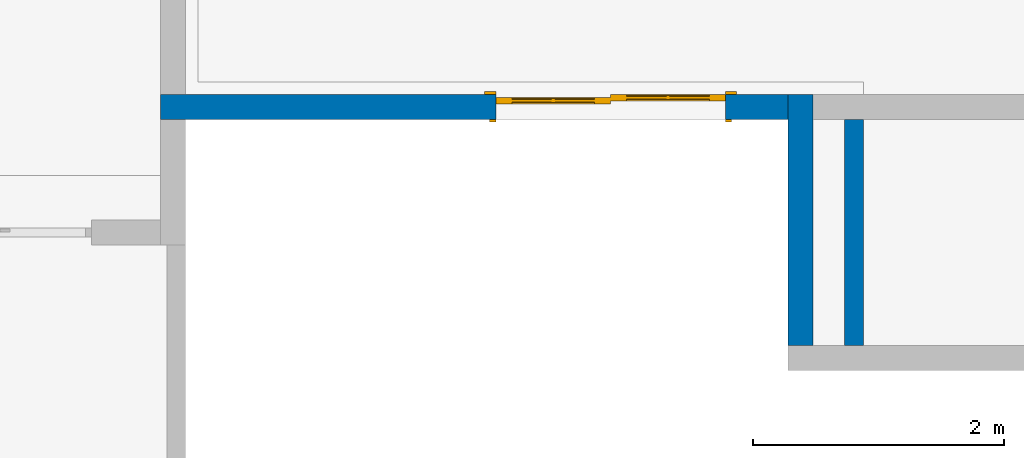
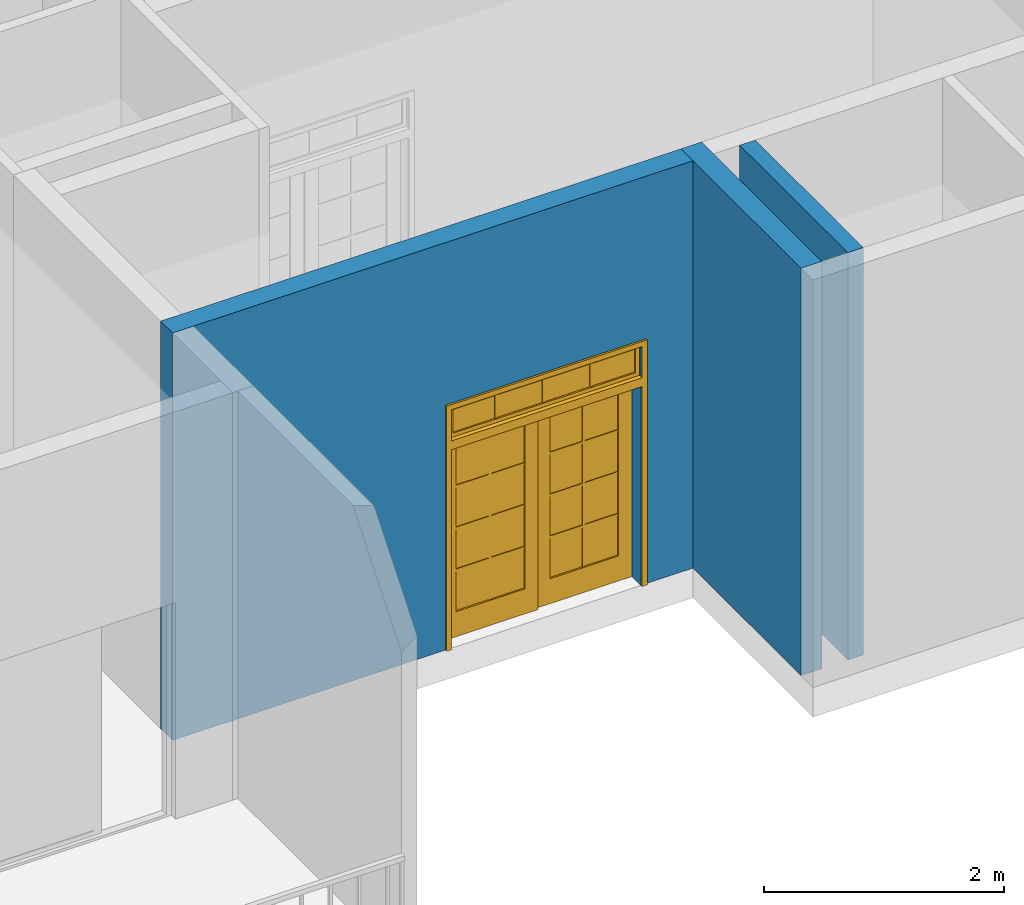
# One storey, part 2 of 8: 3 walls, 1 door, 1 opening.
"""IFC2X3 building model written with IfcOpenShell, lengths in metres."""

import ifcopenshell
import ifcopenshell.guid

model = None  # the IFC model being written
_history = None  # IfcOwnerHistory: only IFC2X3 demands one
_inside = {}  # id of a spatial element -> (the spatial element, [elements in it])
_under = {}  # id of a project, library or spatial element -> (it, [spatial elements below it])
_declared = {}  # id of a project -> (the project, [libraries it declares])
_typed = {}  # id of a type object -> (the type object, [elements of that type])
_made_of = {}  # id of a material, layer set ... -> (it, [elements and type objects made of it])


def new_model(schema):
    """Start an empty IFC model of exactly this schema.

    Asked for "IFC4X3", IfcOpenShell would pick the latest addendum, in which some entities
    have other attributes; the version numbers below select the first issue.
    IFC2X3 requires an IfcOwnerHistory on every rooted entity: one is made here for all.
    """
    global model, _history
    if schema == "IFC4X3":
        model = ifcopenshell.file(schema_version=(4, 3, 0, 0))
    else:
        model = ifcopenshell.file(schema=schema)
    _inside.clear()
    _under.clear()
    _declared.clear()
    _typed.clear()
    _made_of.clear()
    _history = None
    if model.schema == "IFC2X3":
        org = make("IfcOrganization", Name="unknown")
        user = make(
            "IfcPersonAndOrganization",
            ThePerson=make("IfcPerson", FamilyName="unknown"),
            TheOrganization=org,
        )
        app = make(
            "IfcApplication",
            ApplicationDeveloper=org,
            Version="unknown",
            ApplicationFullName="unknown",
            ApplicationIdentifier="unknown",
        )
        _history = make(
            "IfcOwnerHistory",
            OwningUser=user,
            OwningApplication=app,
            ChangeAction="ADDED",
            CreationDate=0,
        )
    return model


def make(cls, **values):
    """One entity of the class cls with the attributes given. An attribute that is None is left unset."""
    return model.create_entity(
        cls, **{name: value for name, value in values.items() if value is not None}
    )


def entity(cls, *values):
    """Any entity or typed value of the class cls, its attributes in the order of the schema. None: left unset."""
    e = model.create_entity(cls)
    for i, value in enumerate(values):
        if value is not None:
            e[i] = value
    return e


def rooted(cls, **values):
    """An entity with a GlobalId (a new one), such as an element, a storey or a relation."""
    return make(cls, GlobalId=ifcopenshell.guid.new(), OwnerHistory=_history, **values)


def si_unit(unit_type, name, prefix=None):
    """IfcSIUnit, for example si_unit("LENGTHUNIT", "METRE", prefix="MILLI")."""
    return make("IfcSIUnit", UnitType=unit_type, Prefix=prefix, Name=name)


def converted_unit(unit_type, name, factor, base, dimensions=None, offset=None):
    """IfcConversionBasedUnit, such as the inch: factor (a typed value) times the base unit."""
    return make(
        "IfcConversionBasedUnit"
        if offset is None
        else "IfcConversionBasedUnitWithOffset",
        ConversionOffset=offset,
        Dimensions=None
        if dimensions is None
        else entity("IfcDimensionalExponents", *dimensions),
        UnitType=unit_type,
        Name=name,
        ConversionFactor=make(
            "IfcMeasureWithUnit", ValueComponent=factor, UnitComponent=base
        ),
    )


def derived_unit(unit_type, elements):
    """IfcDerivedUnit: a product of units, each with its exponent."""
    return make(
        "IfcDerivedUnit",
        Elements=[
            make("IfcDerivedUnitElement", Unit=unit, Exponent=power)
            for unit, power in elements
        ],
        UnitType=unit_type,
    )


def assignment(units):
    """IfcUnitAssignment: the units of a project."""
    return None if units is None else make("IfcUnitAssignment", Units=units)


def point(xyz):
    """IfcCartesianPoint."""
    return None if xyz is None else make("IfcCartesianPoint", Coordinates=xyz)


def direction(xyz):
    """IfcDirection."""
    return None if xyz is None else make("IfcDirection", DirectionRatios=xyz)


def frame(location, z_axis=None, x_axis=None):
    """IfcAxis2Placement3D, a coordinate frame: its origin and axes. An axis left out is left unset."""
    return make(
        "IfcAxis2Placement3D",
        Location=point(location),
        Axis=direction(z_axis),
        RefDirection=direction(x_axis),
    )


def frame_2d(location, x_axis=None):
    """IfcAxis2Placement2D, a coordinate frame in the plane: its origin and x axis."""
    return make(
        "IfcAxis2Placement2D", Location=point(location), RefDirection=direction(x_axis)
    )


def origin():
    """The frame at (0, 0, 0) with its axes left unset."""
    return frame((0.0, 0.0, 0.0))


def place(relative_to, where):
    """IfcLocalPlacement: puts the frame where relative to a parent placement (None: the world)."""
    return make(
        "IfcLocalPlacement", PlacementRelTo=relative_to, RelativePlacement=where
    )


def context(
    kind, dimensions, precision=None, world=None, true_north=None, identifier=None
):
    """IfcGeometricRepresentationContext, for example the 3D "Model" context."""
    return make(
        "IfcGeometricRepresentationContext",
        ContextIdentifier=identifier,
        ContextType=kind,
        CoordinateSpaceDimension=dimensions,
        Precision=precision,
        WorldCoordinateSystem=world,
        TrueNorth=true_north,
    )


def subcontext(parent, identifier, kind, view, scale=None):
    """IfcGeometricRepresentationSubContext, for example "Body" below "Model"."""
    return make(
        "IfcGeometricRepresentationSubContext",
        ContextIdentifier=identifier,
        ContextType=kind,
        ParentContext=parent,
        TargetScale=scale,
        TargetView=view,
    )


def project(units=None, contexts=None):
    """IfcProject with its units and contexts."""
    return rooted(
        "IfcProject",
        Name="project",
        RepresentationContexts=contexts,
        UnitsInContext=assignment(units),
    )


def spatial(cls, under=None, at=None, **own):
    """A site, building, storey or space (cls), placed at a placement, below another one or the project."""
    s = rooted(cls, ObjectPlacement=at, **own)
    if under is not None:
        _under.setdefault(under.id(), (under, []))[1].append(s)
    return s


def profile(cls, at=None, kind="AREA", **sizes):
    """A parametric profile (cls). Its sizes go by their IFC names, for example OverallWidth=200.0."""
    return make(cls, ProfileType=kind, Position=at, **sizes)


def rectangle(**sizes):
    """IfcRectangleProfileDef."""
    return profile("IfcRectangleProfileDef", **sizes)


def extrude(swept, where, along, depth):
    """IfcExtrudedAreaSolid: the profile swept, set in the frame where, extruded along a direction by depth."""
    return make(
        "IfcExtrudedAreaSolid",
        SweptArea=swept,
        Position=where,
        ExtrudedDirection=direction(along),
        Depth=depth,
    )


def faces_of(points, faces, orient=None, outer=None):
    """IfcFace entities. A face is a list of loops; a loop is a list of indices into points, from 0.

    orient and outer hold one flag for each loop. By default every Orientation is true, the
    first loop of a face is its IfcFaceOuterBound and the others are IfcFaceBound.
    """
    made = []
    for i, loops in enumerate(faces):
        bounds = []
        for j, loop in enumerate(loops):
            is_outer = j == 0 if outer is None else outer[i][j]
            bounds.append(
                make(
                    "IfcFaceOuterBound" if is_outer else "IfcFaceBound",
                    Bound=make("IfcPolyLoop", Polygon=[points[k] for k in loop]),
                    Orientation=True if orient is None else orient[i][j],
                )
            )
        made.append(make("IfcFace", Bounds=bounds))
    return made


def faceted_brep(points, faces, orient=None, outer=None, voids=None):
    """IfcFacetedBrep: a solid bounded by flat faces; with voids (closed shells), ...WithVoids."""
    shared = [point(p) for p in points]
    hull = make("IfcClosedShell", CfsFaces=faces_of(shared, faces, orient, outer))
    if voids is None:
        return make("IfcFacetedBrep", Outer=hull)
    return make(
        "IfcFacetedBrepWithVoids",
        Outer=hull,
        Voids=[
            make(cls, CfsFaces=faces_of(shared, fs, o, b)) for cls, fs, o, b in voids
        ],
    )


def shape(context_of_items, identifier, shape_type, items):
    """IfcShapeRepresentation: the items that make up one representation, for example the "Body"."""
    return make(
        "IfcShapeRepresentation",
        ContextOfItems=context_of_items,
        RepresentationIdentifier=identifier,
        RepresentationType=shape_type,
        Items=items,
    )


def source(mapping_origin, context_of_items, identifier, shape_type, items):
    """IfcRepresentationMap: a shape defined once, which mapped items show again and again."""
    return make(
        "IfcRepresentationMap",
        MappingOrigin=mapping_origin,
        MappedRepresentation=shape(context_of_items, identifier, shape_type, items),
    )


def transform(
    local_origin,
    x_axis=None,
    y_axis=None,
    z_axis=None,
    scale=None,
    scale2=None,
    scale3=None,
    uniform=True,
):
    """IfcCartesianTransformationOperator3D, or its non-uniform kind. x_axis, y_axis, z_axis: its Axis1, 2, 3."""
    if uniform:
        return make(
            "IfcCartesianTransformationOperator3D",
            Axis1=direction(x_axis),
            Axis2=direction(y_axis),
            LocalOrigin=point(local_origin),
            Scale=scale,
            Axis3=direction(z_axis),
        )
    return make(
        "IfcCartesianTransformationOperator3DnonUniform",
        Axis1=direction(x_axis),
        Axis2=direction(y_axis),
        LocalOrigin=point(local_origin),
        Scale=scale,
        Axis3=direction(z_axis),
        Scale2=scale2,
        Scale3=scale3,
    )


def mapped(mapping_source, mapping_target):
    """IfcMappedItem: shows the shape of a source again, moved by a transform."""
    return make(
        "IfcMappedItem", MappingSource=mapping_source, MappingTarget=mapping_target
    )


def material(Name=None, Category=None):
    """IfcMaterial."""
    return make("IfcMaterial", Name=Name, Category=Category)


def material_list(materials):
    """IfcMaterialList."""
    return make("IfcMaterialList", Materials=materials)


def layer(
    of_material, thickness, ventilated=None, Name=None, Category=None, Priority=None
):
    """IfcMaterialLayer: one layer of a wall or slab, of a material (None: an air gap)."""
    return make(
        "IfcMaterialLayer",
        Material=of_material,
        LayerThickness=thickness,
        IsVentilated=ventilated,
        Name=Name,
        Category=Category,
        Priority=Priority,
    )


def layer_set(layers, Name=None):
    """IfcMaterialLayerSet."""
    return make("IfcMaterialLayerSet", MaterialLayers=layers, LayerSetName=Name)


def layer_usage(for_layer_set, set_direction, sense, offset, extent=None):
    """IfcMaterialLayerSetUsage: how a layer set lies in its element."""
    return make(
        "IfcMaterialLayerSetUsage",
        ForLayerSet=for_layer_set,
        LayerSetDirection=set_direction,
        DirectionSense=sense,
        OffsetFromReferenceLine=offset,
        ReferenceExtent=extent,
    )


def made_of(thing, what):
    """Note that an element or type object is made of a material, layer set ...; save() writes the relation."""
    if what is not None:
        _made_of.setdefault(what.id(), (what, []))[1].append(thing)
    return thing


def type_object(cls, material=None, **own):
    """A type object (cls), such as IfcWallType, which elements share."""
    return made_of(rooted(cls, **own), material)


def type_shapes(of_type, sources):
    """Give a type object the sources (RepresentationMaps) that its elements show as mapped items."""
    of_type.RepresentationMaps = sources


def element(
    cls,
    number,
    at=None,
    inside=None,
    cuts=None,
    type_object=None,
    material=None,
    context=None,
    identifier="Body",
    shape_type=None,
    held_by="IfcProductDefinitionShape",
    body=None,
    shapes=None,
    **own,
):
    """One element of the class cls, such as IfcWall. Its Tag is "e" and its number.

    at: its placement. inside: the storey or other place that contains it. cuts: it is an
    opening in that element (IfcRelVoidsElement). A single representation is given by context,
    identifier, shape_type and body (its items); several are given by shapes. held_by: the class
    of the entity that holds the representations. save() writes the other relations.
    """
    e = rooted(cls, Tag="e%d" % number, ObjectPlacement=at, **own)
    if body is not None:
        shapes = [shape(context, identifier, shape_type, body)]
    if shapes is not None:
        e.Representation = make(held_by, Representations=shapes)
    if inside is not None:
        _inside.setdefault(inside.id(), (inside, []))[1].append(e)
    if cuts is not None:
        rooted(
            "IfcRelVoidsElement", RelatingBuildingElement=cuts, RelatedOpeningElement=e
        )
    if type_object is not None:
        _typed.setdefault(type_object.id(), (type_object, []))[1].append(e)
    return made_of(e, material)


def fill(opening, filler):
    """IfcRelFillsElement: the door or window that sits in an opening."""
    return rooted(
        "IfcRelFillsElement",
        RelatingOpeningElement=opening,
        RelatedBuildingElement=filler,
    )


def aggregate(whole, parts):
    """IfcRelAggregates: a whole, such as a stair, and the parts it consists of."""
    return rooted("IfcRelAggregates", RelatingObject=whole, RelatedObjects=parts)


def save(model, path):
    """Write the relations noted so far, then the file.

    IfcRelAggregates (storeys below a building ...), IfcRelContainedInSpatialStructure (elements
    in a storey), IfcRelDefinesByType, IfcRelAssociatesMaterial and IfcRelDeclares: one each for
    every whole, place, type object, material and project.
    """
    for whole, parts in _under.values():
        aggregate(whole, parts)
    for where, things in _inside.values():
        rooted(
            "IfcRelContainedInSpatialStructure",
            RelatedElements=things,
            RelatingStructure=where,
        )
    for kind, things in _typed.values():
        rooted("IfcRelDefinesByType", RelatedObjects=things, RelatingType=kind)
    for what, things in _made_of.values():
        rooted("IfcRelAssociatesMaterial", RelatedObjects=things, RelatingMaterial=what)
    for by, libraries in _declared.values():
        rooted("IfcRelDeclares", RelatingContext=by, RelatedDefinitions=libraries)
    model.write(path)


model = new_model("IFC2X3")

# Units and contexts
model_context = context("Model", 3, precision=1e-05, world=origin(), true_north=direction((6.123031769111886e-17, 1.0)))
body_context = subcontext(model_context, "Body", "Model", "MODEL_VIEW")
ifc_project = project(units=[si_unit("LENGTHUNIT", "METRE"), si_unit("AREAUNIT", "SQUARE_METRE"), si_unit("VOLUMEUNIT", "CUBIC_METRE"), converted_unit("PLANEANGLEUNIT", "DEGREE", entity("IfcRatioMeasure", 0.017453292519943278), si_unit("PLANEANGLEUNIT", "RADIAN"), dimensions=[0, 0, 0, 0, 0, 0, 0]), si_unit("MASSUNIT", "GRAM", prefix="KILO"), derived_unit("MASSDENSITYUNIT", [(si_unit("MASSUNIT", "GRAM", prefix="KILO"), 1), (si_unit("LENGTHUNIT", "METRE"), -3)]), derived_unit("MOMENTOFINERTIAUNIT", [(si_unit("LENGTHUNIT", "METRE"), 4)]), si_unit("TIMEUNIT", "SECOND"), si_unit("FREQUENCYUNIT", "HERTZ"), si_unit("THERMODYNAMICTEMPERATUREUNIT", "DEGREE_CELSIUS"), derived_unit("THERMALTRANSMITTANCEUNIT", [(si_unit("MASSUNIT", "GRAM", prefix="KILO"), 1), (si_unit("THERMODYNAMICTEMPERATUREUNIT", "KELVIN"), -1), (si_unit("TIMEUNIT", "SECOND"), -3)]), derived_unit("VOLUMETRICFLOWRATEUNIT", [(si_unit("LENGTHUNIT", "METRE"), 3), (si_unit("TIMEUNIT", "SECOND"), -1)]), derived_unit("MASSFLOWRATEUNIT", [(si_unit("MASSUNIT", "GRAM", prefix="KILO"), 1), (si_unit("TIMEUNIT", "SECOND"), -1)]), derived_unit("ROTATIONALFREQUENCYUNIT", [(si_unit("TIMEUNIT", "SECOND"), -1)]), si_unit("ELECTRICCURRENTUNIT", "AMPERE"), si_unit("ELECTRICVOLTAGEUNIT", "VOLT"), si_unit("POWERUNIT", "WATT"), si_unit("FORCEUNIT", "NEWTON", prefix="KILO"), si_unit("ILLUMINANCEUNIT", "LUX"), si_unit("LUMINOUSFLUXUNIT", "LUMEN"), si_unit("LUMINOUSINTENSITYUNIT", "CANDELA"), derived_unit("USERDEFINED", [(si_unit("MASSUNIT", "GRAM", prefix="KILO"), -1), (si_unit("LENGTHUNIT", "METRE"), -2), (si_unit("TIMEUNIT", "SECOND"), 3), (si_unit("LUMINOUSFLUXUNIT", "LUMEN"), 1)]), derived_unit("SOUNDPOWERUNIT", [(si_unit("MASSUNIT", "GRAM", prefix="KILO"), 1), (si_unit("LENGTHUNIT", "METRE"), 2), (si_unit("TIMEUNIT", "SECOND"), -3)]), derived_unit("SOUNDPRESSUREUNIT", [(si_unit("MASSUNIT", "GRAM", prefix="KILO"), 1), (si_unit("LENGTHUNIT", "METRE"), -1), (si_unit("TIMEUNIT", "SECOND"), -2)]), derived_unit("LINEARVELOCITYUNIT", [(si_unit("LENGTHUNIT", "METRE"), 1), (si_unit("TIMEUNIT", "SECOND"), -1)]), si_unit("PRESSUREUNIT", "PASCAL"), derived_unit("USERDEFINED", [(si_unit("LENGTHUNIT", "METRE"), -2), (si_unit("MASSUNIT", "GRAM", prefix="KILO"), 1), (si_unit("TIMEUNIT", "SECOND"), -2)]), derived_unit("LINEARFORCEUNIT", [(si_unit("MASSUNIT", "GRAM", prefix="KILO"), 1), (si_unit("LENGTHUNIT", "METRE"), 1), (si_unit("TIMEUNIT", "SECOND"), -2), (si_unit("LENGTHUNIT", "METRE"), -1)]), derived_unit("PLANARFORCEUNIT", [(si_unit("MASSUNIT", "GRAM", prefix="KILO"), 1), (si_unit("LENGTHUNIT", "METRE"), 1), (si_unit("TIMEUNIT", "SECOND"), -2), (si_unit("LENGTHUNIT", "METRE"), -2)])], contexts=[model_context])

# Site, building, storey
site_placement = place(None, origin())
site = spatial("IfcSite", under=ifc_project, at=site_placement, Name="Default", CompositionType="ELEMENT")
building_placement = place(site_placement, origin())
building = spatial("IfcBuilding", under=site, at=building_placement, CompositionType="ELEMENT")
storey_placement = place(building_placement, frame((0.0, 0.0, 1.1999999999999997)))
storey = spatial("IfcBuildingStorey", under=building, at=storey_placement, Name="G0", CompositionType="ELEMENT", Elevation=1.1999999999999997)

# Wall
ifc_material_1 = material(Name="Masonry - Concrete Block")
ifc_layer_1 = layer(ifc_material_1, 0.2)
ifc_layer_set_1 = layer_set([ifc_layer_1], Name="Basic Wall:CW 200")
ifc_layer_usage_1 = layer_usage(ifc_layer_set_1, "AXIS2", "NEGATIVE", 0.1)
wall_type_1 = type_object("IfcWallType", Name="Basic Wall:CW 200", PredefinedType="STANDARD", material=ifc_layer_set_1)
wall_1_placement = place(storey_placement, frame((18.00768321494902, -7.10230916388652, 0.0), z_axis=(0.0, 0.0, 1.0), x_axis=(0.0, 1.0, 0.0)))
element("IfcWallStandardCase", 1, at=wall_1_placement, inside=storey, type_object=wall_type_1, material=ifc_layer_usage_1, Name="Basic Wall:CW 200", ObjectType="Basic Wall:CW 200", context=body_context, shape_type="SweptSolid", body=[
    extrude(rectangle(XDim=1.9999999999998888, YDim=0.19999999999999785, at=frame_2d((0.9999999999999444, 1.1796119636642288e-16), x_axis=(-1.0, 0.0))), origin(), (0.0, 0.0, 1.0), 4.139999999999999),
])

# Wall, opening, door
ifc_layer_usage_2 = layer_usage(ifc_layer_set_1, "AXIS2", "NEGATIVE", 0.1)
wall_2_placement = place(storey_placement, frame((17.90768321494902, -5.202309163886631, 0.0), z_axis=(0.0, 0.0, 1.0), x_axis=(-1.0, 0.0, 0.0)))
wall_2 = element("IfcWallStandardCase", 2, at=wall_2_placement, inside=storey, type_object=wall_type_1, material=ifc_layer_usage_2, Name="Basic Wall:CW 200", ObjectType="Basic Wall:CW 200", context=body_context, shape_type="SweptSolid", body=[
    extrude(rectangle(XDim=5.000000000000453, YDim=0.2, at=frame_2d((2.5000000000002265, 0.0), x_axis=(1.0, 0.0))), origin(), (0.0, 0.0, 1.0), 4.139999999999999),
])
opening_placement = place(wall_2_placement, frame((2.328800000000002, 0.0999999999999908, 0.0)))
opening = element("IfcOpeningElement", 3, at=opening_placement, cuts=wall_2, Name="Double_8_lite_patio_door_5282:36x2\" x 80\" w/transom\":1", ObjectType="Opening", context=body_context, shape_type="SweptSolid", body=[
    extrude(rectangle(XDim=1.8287999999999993, YDim=2.4384000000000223, at=frame_2d((1.2192000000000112, 0.9144000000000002), x_axis=(0.0, -1.0))), frame((0.0, 0.0, 0.0), z_axis=(0.0, -1.0, 0.0), x_axis=(0.0, 0.0, 1.0)), (0.0, 0.0, 1.0), 0.2),
])
ifc_material_2 = material(Name="<Unnamed>")
ifc_material_3 = material(Name="Door - Panel")
ifc_material_4 = material(Name="Glazing - Window Glazing")
ifc_material_5 = material(Name="Finishes - Exterior - Trim")
ifc_material_6 = material(Name="Finishes - Interior - Trim")
ifc_material_list_1 = material_list([ifc_material_2, ifc_material_3, ifc_material_3, ifc_material_4, ifc_material_3, ifc_material_3, ifc_material_3, ifc_material_4, ifc_material_3, ifc_material_5, ifc_material_4, ifc_material_3, ifc_material_3, ifc_material_5, ifc_material_5, ifc_material_5, ifc_material_6])
ifc_material_list_2 = material_list([ifc_material_2, ifc_material_3, ifc_material_3, ifc_material_4, ifc_material_3, ifc_material_3, ifc_material_3, ifc_material_4, ifc_material_3, ifc_material_5, ifc_material_4, ifc_material_3, ifc_material_3, ifc_material_5, ifc_material_5, ifc_material_5, ifc_material_6])
door_style = type_object("IfcDoorStyle", Name="Double_8_lite_patio_door_5282:36x2\" x 80\" w/transom\"", ConstructionType="NOTDEFINED", OperationType="NOTDEFINED", ParameterTakesPrecedence=False, Sizeable=False, material=ifc_material_list_2)
shared_shape = source(origin(), body_context, "Body", "Brep", [
    faceted_brep([(1.8288000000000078, 0.2000000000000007, 2.0319999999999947), (1.8288000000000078, 0.0, 2.0319999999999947), (0.0, 0.0, 2.0319999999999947), (0.0, 0.2000000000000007, 2.0319999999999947), (1.8288000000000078, 0.2000000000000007, 2.120899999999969), (0.0, 0.2000000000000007, 2.120899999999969), (0.0, 0.0, 2.120899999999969), (1.8288000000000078, 0.0, 2.120899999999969)], [[[0, 1, 2, 3]], [[4, 5, 6, 7]], [[1, 0, 4, 7]], [[2, 1, 7, 6]], [[3, 2, 6, 5]], [[0, 3, 5, 4]]]),
    faceted_brep([(1.3842999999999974, 0.16667500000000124, 2.1589999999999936), (1.3588999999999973, 0.16667500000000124, 2.1589999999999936), (1.3588999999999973, 0.16667500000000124, 2.40030000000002), (1.3842999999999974, 0.16667500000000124, 2.40030000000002), (1.3842999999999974, 0.1349250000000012, 2.1589999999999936), (1.3842999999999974, 0.1349250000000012, 2.40030000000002), (1.3588999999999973, 0.1349250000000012, 2.40030000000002), (1.3588999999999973, 0.1349250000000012, 2.1589999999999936)], [[[0, 1, 2, 3]], [[4, 5, 6, 7]], [[1, 0, 4, 7]], [[2, 1, 7, 6]], [[3, 2, 6, 5]], [[0, 3, 5, 4]]]),
    faceted_brep([(0.46990000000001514, 0.16667500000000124, 2.15899999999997), (0.4445000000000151, 0.16667500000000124, 2.15899999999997), (0.4445000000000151, 0.16667500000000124, 2.4002999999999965), (0.46990000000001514, 0.16667500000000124, 2.4002999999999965), (0.46990000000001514, 0.1349250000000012, 2.15899999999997), (0.46990000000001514, 0.1349250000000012, 2.4002999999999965), (0.4445000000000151, 0.1349250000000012, 2.4002999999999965), (0.4445000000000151, 0.1349250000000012, 2.15899999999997)], [[[0, 1, 2, 3]], [[4, 5, 6, 7]], [[1, 0, 4, 7]], [[2, 1, 7, 6]], [[3, 2, 6, 5]], [[0, 3, 5, 4]]]),
    faceted_brep([(1.0159999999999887, 0.05872499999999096, 1.93040000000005), (1.7525999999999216, 0.05872499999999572, 1.93040000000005), (1.7525999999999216, 0.05872499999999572, 0.2540000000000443), (1.0160000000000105, 0.05872499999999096, 0.25400000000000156), (1.015999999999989, 0.03967499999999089, 1.93040000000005), (1.0160000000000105, 0.03967499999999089, 0.25400000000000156), (1.7525999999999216, 0.03967499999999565, 0.2540000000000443), (1.7525999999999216, 0.03967499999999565, 1.93040000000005)], [[[0, 1, 2, 3]], [[4, 5, 6, 7]], [[1, 0, 4, 7]], [[2, 1, 7, 6]], [[3, 2, 6, 5]], [[0, 3, 5, 4]]]),
    faceted_brep([(1.3842999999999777, 0.06507499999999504, 0.6794500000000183), (1.7017999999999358, 0.06507499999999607, 0.6794500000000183), (1.7017999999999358, 0.06507499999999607, 0.6540500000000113), (1.3842999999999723, 0.06507499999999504, 0.6540500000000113), (1.3842999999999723, 0.06507499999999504, 0.25400000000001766), (1.3588999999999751, 0.06507499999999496, 0.25400000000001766), (1.3588999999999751, 0.06507499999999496, 0.6540500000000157), (1.0414000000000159, 0.06507499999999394, 0.6540499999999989), (1.0414000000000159, 0.06507499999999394, 0.6794500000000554), (1.3588999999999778, 0.06507499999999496, 0.6794500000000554), (1.3588999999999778, 0.06507499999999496, 1.0795000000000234), (1.0414000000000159, 0.06507499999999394, 1.0795000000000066), (1.0414000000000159, 0.06507499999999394, 1.1049000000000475), (1.3588999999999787, 0.06507499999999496, 1.1049000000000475), (1.3588999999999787, 0.06507499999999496, 1.5049500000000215), (1.0414000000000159, 0.06507499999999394, 1.5049500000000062), (1.0414000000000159, 0.06507499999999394, 1.5303500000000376), (1.3588999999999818, 0.06507499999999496, 1.5303500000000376), (1.3588999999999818, 0.06507499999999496, 1.9304000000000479), (1.384299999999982, 0.06507499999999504, 1.9304000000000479), (1.384299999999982, 0.06507499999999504, 1.5303500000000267), (1.7017999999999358, 0.06507499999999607, 1.5303500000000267), (1.7017999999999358, 0.06507499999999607, 1.5049500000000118), (1.3842999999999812, 0.06507499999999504, 1.5049500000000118), (1.3842999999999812, 0.06507499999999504, 1.1049000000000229), (1.7017999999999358, 0.06507499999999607, 1.1049000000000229), (1.7017999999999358, 0.06507499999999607, 1.0795000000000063), (1.3842999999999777, 0.06507499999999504, 1.0795000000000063), (1.3842999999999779, 0.03332499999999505, 0.6794500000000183), (1.3842999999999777, 0.03332499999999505, 1.0795000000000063), (1.701799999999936, 0.03332499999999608, 1.0795000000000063), (1.701799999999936, 0.03332499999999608, 1.1049000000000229), (1.3842999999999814, 0.03332499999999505, 1.1049000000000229), (1.3842999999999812, 0.03332499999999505, 1.5049500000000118), (1.701799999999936, 0.03332499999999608, 1.5049500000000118), (1.701799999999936, 0.03332499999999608, 1.5303500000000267), (1.384299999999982, 0.03332499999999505, 1.5303500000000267), (1.384299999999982, 0.03332499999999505, 1.9304000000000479), (1.358899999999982, 0.03332499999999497, 1.9304000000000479), (1.358899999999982, 0.03332499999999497, 1.5303500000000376), (1.0414000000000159, 0.033324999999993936, 1.5303500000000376), (1.0414000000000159, 0.033324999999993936, 1.5049500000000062), (1.3588999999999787, 0.03332499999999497, 1.5049500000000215), (1.3588999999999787, 0.03332499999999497, 1.1049000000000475), (1.0414000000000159, 0.033324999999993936, 1.1049000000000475), (1.0414000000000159, 0.033324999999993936, 1.0795000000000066), (1.358899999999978, 0.03332499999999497, 1.0795000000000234), (1.358899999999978, 0.03332499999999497, 0.6794500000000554), (1.0414000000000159, 0.033324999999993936, 0.6794500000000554), (1.0414000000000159, 0.033324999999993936, 0.6540499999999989), (1.3588999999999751, 0.03332499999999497, 0.6540500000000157), (1.3588999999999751, 0.03332499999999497, 0.25400000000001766), (1.3842999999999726, 0.03332499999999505, 0.25400000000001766), (1.3842999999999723, 0.03332499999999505, 0.6540500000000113), (1.701799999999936, 0.03332499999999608, 0.6540500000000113), (1.701799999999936, 0.03332499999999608, 0.6794500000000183)], [[[0, 1, 2, 3, 4, 5, 6, 7, 8, 9, 10, 11, 12, 13, 14, 15, 16, 17, 18, 19, 20, 21, 22, 23, 24, 25, 26, 27]], [[28, 29, 30, 31, 32, 33, 34, 35, 36, 37, 38, 39, 40, 41, 42, 43, 44, 45, 46, 47, 48, 49, 50, 51, 52, 53, 54, 55]], [[1, 0, 28, 55]], [[2, 1, 55, 54]], [[3, 2, 54, 53]], [[4, 3, 53, 52]], [[5, 4, 52, 51]], [[6, 5, 51, 50]], [[7, 6, 50, 49]], [[8, 7, 49, 48]], [[9, 8, 48, 47]], [[10, 9, 47, 46]], [[11, 10, 46, 45]], [[12, 11, 45, 44]], [[13, 12, 44, 43]], [[14, 13, 43, 42]], [[15, 14, 42, 41]], [[16, 15, 41, 40]], [[17, 16, 40, 39]], [[18, 17, 39, 38]], [[19, 18, 38, 37]], [[20, 19, 37, 36]], [[21, 20, 36, 35]], [[22, 21, 35, 34]], [[23, 22, 34, 33]], [[24, 23, 33, 32]], [[25, 24, 32, 31]], [[26, 25, 31, 30]], [[27, 26, 30, 29]], [[0, 27, 29, 28]]]),
    faceted_brep([(0.9144000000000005, 0.07459999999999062, 2.032000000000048), (1.828800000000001, 0.07459999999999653, 2.032000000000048), (1.828800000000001, 0.07459999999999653, 0.0), (0.9144000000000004, 0.07459999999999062, 0.0), (1.0413999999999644, 0.07459999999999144, 1.9304000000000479), (1.0414000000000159, 0.07459999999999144, 0.25400000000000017), (1.701799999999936, 0.07459999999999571, 0.25400000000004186), (1.701799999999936, 0.07459999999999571, 1.9304000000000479), (0.9144000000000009, 0.023799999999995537, 2.032000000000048), (0.9144000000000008, 0.023799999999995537, 0.0), (1.828800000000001, 0.02380000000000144, 0.0), (1.828800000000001, 0.02380000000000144, 2.032000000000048), (1.0413999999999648, 0.02379999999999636, 1.9304000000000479), (1.7017999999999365, 0.023800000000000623, 1.9304000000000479), (1.7017999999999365, 0.023800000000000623, 0.25400000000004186), (1.041400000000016, 0.02379999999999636, 0.25400000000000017)], [[[0, 1, 2, 3], [4, 5, 6, 7]], [[8, 9, 10, 11], [12, 13, 14, 15]], [[1, 0, 8, 11]], [[2, 1, 11, 10]], [[3, 2, 10, 9]], [[0, 3, 9, 8]], [[5, 4, 12, 15]], [[6, 5, 15, 14]], [[7, 6, 14, 13]], [[4, 7, 13, 12]]]),
    faceted_brep([(0.44450000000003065, 0.04127499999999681, 0.6794500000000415), (0.44450000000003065, 0.04127499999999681, 1.079499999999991), (0.12700000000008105, 0.041274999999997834, 1.079499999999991), (0.12700000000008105, 0.041274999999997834, 1.104900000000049), (0.44450000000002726, 0.04127499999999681, 1.104900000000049), (0.44450000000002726, 0.04127499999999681, 1.5049499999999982), (0.12700000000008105, 0.041274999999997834, 1.5049499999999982), (0.12700000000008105, 0.041274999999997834, 1.5303500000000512), (0.4445000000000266, 0.04127499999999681, 1.5303500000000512), (0.4445000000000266, 0.04127499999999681, 1.9304000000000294), (0.46990000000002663, 0.041274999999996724, 1.9304000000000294), (0.46990000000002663, 0.041274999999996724, 1.5303500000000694), (0.7873999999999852, 0.041274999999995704, 1.5303500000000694), (0.7873999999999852, 0.041274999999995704, 1.50495000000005), (0.46990000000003, 0.041274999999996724, 1.5049500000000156), (0.46990000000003, 0.041274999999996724, 1.1049000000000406), (0.7873999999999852, 0.041274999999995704, 1.1049000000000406), (0.7873999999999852, 0.041274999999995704, 1.07950000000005), (0.4699000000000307, 0.041274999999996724, 1.079500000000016), (0.4699000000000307, 0.041274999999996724, 0.6794500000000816), (0.7873999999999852, 0.041274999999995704, 0.6794500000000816), (0.7873999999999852, 0.041274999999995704, 0.6540500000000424), (0.4699000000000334, 0.041274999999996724, 0.6540500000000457), (0.4699000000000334, 0.041274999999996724, 0.2540000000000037), (0.4445000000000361, 0.04127499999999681, 0.2540000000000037), (0.4445000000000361, 0.04127499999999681, 0.6540499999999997), (0.12700000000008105, 0.041274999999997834, 0.6540499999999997), (0.12700000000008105, 0.041274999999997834, 0.6794500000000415), (0.44450000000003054, 0.009524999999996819, 0.6794500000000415), (0.1270000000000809, 0.009524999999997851, 0.6794500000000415), (0.1270000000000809, 0.009524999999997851, 0.6540499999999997), (0.4445000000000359, 0.009524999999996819, 0.6540499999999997), (0.4445000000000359, 0.009524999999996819, 0.2540000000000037), (0.4699000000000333, 0.009524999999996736, 0.2540000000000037), (0.4699000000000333, 0.009524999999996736, 0.6540500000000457), (0.7873999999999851, 0.009524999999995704, 0.6540500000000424), (0.7873999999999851, 0.009524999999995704, 0.6794500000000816), (0.46990000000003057, 0.009524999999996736, 0.6794500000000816), (0.46990000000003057, 0.009524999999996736, 1.079500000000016), (0.7873999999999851, 0.009524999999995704, 1.07950000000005), (0.7873999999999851, 0.009524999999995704, 1.1049000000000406), (0.4699000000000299, 0.009524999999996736, 1.1049000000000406), (0.4699000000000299, 0.009524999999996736, 1.5049500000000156), (0.7873999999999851, 0.009524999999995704, 1.50495000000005), (0.7873999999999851, 0.009524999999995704, 1.5303500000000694), (0.4699000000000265, 0.009524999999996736, 1.5303500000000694), (0.4699000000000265, 0.009524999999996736, 1.9304000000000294), (0.4445000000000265, 0.009524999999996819, 1.9304000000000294), (0.4445000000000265, 0.009524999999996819, 1.5303500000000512), (0.1270000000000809, 0.009524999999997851, 1.5303500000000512), (0.1270000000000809, 0.009524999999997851, 1.5049499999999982), (0.44450000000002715, 0.009524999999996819, 1.5049499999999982), (0.44450000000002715, 0.009524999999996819, 1.104900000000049), (0.1270000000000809, 0.009524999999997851, 1.104900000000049), (0.1270000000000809, 0.009524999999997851, 1.079499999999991), (0.44450000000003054, 0.009524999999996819, 1.079499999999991)], [[[0, 1, 2, 3, 4, 5, 6, 7, 8, 9, 10, 11, 12, 13, 14, 15, 16, 17, 18, 19, 20, 21, 22, 23, 24, 25, 26, 27]], [[28, 29, 30, 31, 32, 33, 34, 35, 36, 37, 38, 39, 40, 41, 42, 43, 44, 45, 46, 47, 48, 49, 50, 51, 52, 53, 54, 55]], [[1, 0, 28, 55]], [[2, 1, 55, 54]], [[3, 2, 54, 53]], [[4, 3, 53, 52]], [[5, 4, 52, 51]], [[6, 5, 51, 50]], [[7, 6, 50, 49]], [[8, 7, 49, 48]], [[9, 8, 48, 47]], [[10, 9, 47, 46]], [[11, 10, 46, 45]], [[12, 11, 45, 44]], [[13, 12, 44, 43]], [[14, 13, 43, 42]], [[15, 14, 42, 41]], [[16, 15, 41, 40]], [[17, 16, 40, 39]], [[18, 17, 39, 38]], [[19, 18, 38, 37]], [[20, 19, 37, 36]], [[21, 20, 36, 35]], [[22, 21, 35, 34]], [[23, 22, 34, 33]], [[24, 23, 33, 32]], [[25, 24, 32, 31]], [[26, 25, 31, 30]], [[27, 26, 30, 29]], [[0, 27, 29, 28]]]),
    faceted_brep([(0.8128000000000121, 0.034924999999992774, 1.9304000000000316), (0.8127999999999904, 0.034924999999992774, 0.25400000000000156), (0.0762000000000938, 0.034924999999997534, 0.2540000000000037), (0.0762000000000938, 0.034924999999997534, 1.9304000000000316), (0.812800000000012, 0.015874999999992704, 1.9304000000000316), (0.07620000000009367, 0.015874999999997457, 1.9304000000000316), (0.0762000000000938, 0.015874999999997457, 0.2540000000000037), (0.8127999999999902, 0.015874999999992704, 0.25400000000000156)], [[[0, 1, 2, 3]], [[4, 5, 6, 7]], [[1, 0, 4, 7]], [[2, 1, 7, 6]], [[3, 2, 6, 5]], [[0, 3, 5, 4]]]),
    faceted_brep([(0.9143999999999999, 0.050799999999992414, 2.032000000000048), (0.9144000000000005, 0.050799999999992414, 0.0), (0.0, 0.05079999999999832, 0.0), (0.0, 0.05079999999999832, 2.032000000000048), (0.7874000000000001, 0.05079999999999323, 1.9304000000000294), (0.1270000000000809, 0.05079999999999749, 1.9304000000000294), (0.1270000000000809, 0.05079999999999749, 0.2540000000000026), (0.7873999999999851, 0.05079999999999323, 0.25400000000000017), (0.9143999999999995, 0.0, 2.032000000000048), (0.0, 0.0, 2.032000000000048), (0.0, 0.0, 0.0), (0.9144000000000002, 0.0, 0.0), (0.7873999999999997, 0.0, 1.9304000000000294), (0.7873999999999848, 0.0, 0.25400000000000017), (0.1270000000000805, 0.0, 0.2540000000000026), (0.1270000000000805, 0.0, 1.9304000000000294)], [[[0, 1, 2, 3], [4, 5, 6, 7]], [[8, 9, 10, 11], [12, 13, 14, 15]], [[1, 0, 8, 11]], [[2, 1, 11, 10]], [[3, 2, 10, 9]], [[0, 3, 9, 8]], [[5, 4, 12, 15]], [[6, 5, 15, 14]], [[7, 6, 14, 13]], [[4, 7, 13, 12]]]),
    faceted_brep([(-0.08889999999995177, 0.0, 2.438400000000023), (-0.0888999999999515, 0.0, 2.5781000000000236), (-0.11429999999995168, 0.0, 2.603500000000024), (-0.11429999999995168, 0.0, 2.6162000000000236), (1.943100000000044, 0.0, 2.6162000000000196), (1.943100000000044, 0.0, 2.60350000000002), (1.9177000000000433, 0.0, 2.5781000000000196), (1.9177000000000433, 0.0, 2.438400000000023), (1.9177000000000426, -0.025400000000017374, 2.4384000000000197), (-0.0888999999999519, -0.02540000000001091, 2.438400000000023), (-0.08889999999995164, -0.02540000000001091, 2.5781000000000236), (-0.11429999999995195, -0.05080000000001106, 2.603500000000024), (-0.11429999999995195, -0.05080000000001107, 2.6162000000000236), (1.9431000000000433, -0.05080000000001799, 2.6162000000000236), (1.9177000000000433, -0.025400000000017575, 2.5781000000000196), (1.9431000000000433, -0.05080000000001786, 2.60350000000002)], [[[0, 1, 2, 3, 4, 5, 6, 7]], [[0, 7, 8, 9]], [[1, 0, 9, 10]], [[2, 1, 10, 11]], [[3, 2, 11, 12]], [[4, 3, 12, 13]], [[10, 9, 8, 14]], [[11, 10, 14, 15]], [[12, 11, 15, 13]], [[14, 8, 7, 6]], [[15, 14, 6, 5]], [[13, 15, 5, 4]]]),
    faceted_brep([(1.7907000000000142, 0.14127500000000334, 2.4003000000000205), (0.03276657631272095, 0.14127500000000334, 2.4003000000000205), (0.03276657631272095, 0.14127500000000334, 2.1589999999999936), (1.7907000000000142, 0.14127500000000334, 2.1589999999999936), (1.7907000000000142, 0.1603250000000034, 2.4003000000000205), (1.7907000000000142, 0.1603250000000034, 2.1589999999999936), (0.03276657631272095, 0.1603250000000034, 2.1589999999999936), (0.03276657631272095, 0.1603250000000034, 2.4003000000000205)], [[[0, 1, 2, 3]], [[4, 5, 6, 7]], [[1, 0, 4, 7]], [[2, 1, 7, 6]], [[3, 2, 6, 5]], [[0, 3, 5, 4]]]),
    faceted_brep([(1.8341334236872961, 0.1254000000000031, 2.4383999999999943), (0.0, 0.1254000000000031, 2.4383999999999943), (0.0, 0.1254000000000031, 2.1208999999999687), (1.8341334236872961, 0.1254000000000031, 2.1208999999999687), (1.7907000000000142, 0.1254000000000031, 2.400299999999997), (1.7907000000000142, 0.1254000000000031, 2.158999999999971), (0.03810000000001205, 0.1254000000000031, 2.158999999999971), (0.038100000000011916, 0.1254000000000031, 2.400299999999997), (1.8341334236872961, 0.17619999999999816, 2.4383999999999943), (1.8341334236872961, 0.17619999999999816, 2.1208999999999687), (0.0, 0.17619999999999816, 2.1208999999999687), (0.0, 0.17619999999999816, 2.4383999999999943), (1.7907000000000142, 0.17619999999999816, 2.400299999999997), (0.038100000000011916, 0.17619999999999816, 2.400299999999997), (0.03810000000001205, 0.17619999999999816, 2.158999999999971), (1.7907000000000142, 0.17619999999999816, 2.158999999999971)], [[[0, 1, 2, 3], [4, 5, 6, 7]], [[8, 9, 10, 11], [12, 13, 14, 15]], [[1, 0, 8, 11]], [[2, 1, 11, 10]], [[3, 2, 10, 9]], [[0, 3, 9, 8]], [[5, 4, 12, 15]], [[6, 5, 15, 14]], [[7, 6, 14, 13]], [[4, 7, 13, 12]]]),
    faceted_brep([(0.9270999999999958, 0.16667500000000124, 2.158999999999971), (0.9016999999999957, 0.16667500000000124, 2.158999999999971), (0.9016999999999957, 0.16667500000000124, 2.4002999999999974), (0.9270999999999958, 0.16667500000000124, 2.4002999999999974), (0.9270999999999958, 0.1349250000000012, 2.158999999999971), (0.9270999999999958, 0.1349250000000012, 2.4002999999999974), (0.9016999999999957, 0.1349250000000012, 2.4002999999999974), (0.9016999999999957, 0.1349250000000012, 2.158999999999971)], [[[0, 1, 2, 3]], [[4, 5, 6, 7]], [[1, 0, 4, 7]], [[2, 1, 7, 6]], [[3, 2, 6, 5]], [[0, 3, 5, 4]]]),
    faceted_brep([(1.828800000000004, 0.0, 2.1208999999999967), (1.828800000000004, -0.02539999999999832, 2.1208999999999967), (1.828800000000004, -0.02539999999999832, 2.0320000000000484), (1.828800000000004, 0.0, 2.0320000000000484), (0.0, 0.0, 2.1209000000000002), (0.0, 0.0, 2.0320000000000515), (0.0, -0.02539999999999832, 2.0320000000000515), (0.0, -0.02539999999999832, 2.1209000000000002)], [[[0, 1, 2, 3]], [[4, 5, 6, 7]], [[1, 0, 4, 7]], [[2, 1, 7, 6]], [[3, 2, 6, 5]], [[0, 3, 5, 4]]]),
    faceted_brep([(1.8288000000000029, 0.0, 0.0), (1.9177000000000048, 0.0, 0.0), (1.9177000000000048, -0.025399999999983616, 0.0), (1.8288000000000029, -0.025399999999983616, 0.0), (1.8288000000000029, 0.0, 2.4384000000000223), (1.9177000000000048, 0.0, 2.4384000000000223), (1.9177000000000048, -0.025399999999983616, 2.4384000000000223), (1.8288000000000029, -0.025399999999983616, 2.4384000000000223)], [[[0, 1, 2, 3]], [[4, 5, 1, 0]], [[5, 6, 2, 1]], [[6, 7, 3, 2]], [[7, 4, 0, 3]], [[4, 7, 6, 5]]]),
    faceted_brep([(-0.08889999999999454, 0.0, 0.0), (0.0, 0.0, 0.0), (0.0, -0.025399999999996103, 0.0), (-0.08889999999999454, -0.025399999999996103, 0.0), (-0.08889999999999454, 0.0, 2.4384000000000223), (0.0, 0.0, 2.4384000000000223), (0.0, -0.025399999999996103, 2.4384000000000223), (-0.08889999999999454, -0.025399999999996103, 2.4384000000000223)], [[[0, 1, 2, 3]], [[4, 5, 1, 0]], [[5, 6, 2, 1]], [[6, 7, 3, 2]], [[7, 4, 0, 3]], [[4, 7, 6, 5]]]),
    faceted_brep([(0.0, 0.2190500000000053, 0.0), (0.0, 0.20000000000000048, 0.0), (-0.050799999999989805, 0.20000000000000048, 0.0), (-0.050799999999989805, 0.2190500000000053, 0.0), (0.0, 0.2190500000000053, 2.4383999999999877), (0.0, 0.20000000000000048, 2.4384000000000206), (0.0, 0.20000000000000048, 2.1208999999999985), (0.0, 0.2190500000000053, 2.1208999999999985), (0.0, 0.20000000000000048, 2.0320000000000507), (1.8288000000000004, 0.20000000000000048, 2.0320000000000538), (1.8288000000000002, 0.19999999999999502, 0.0), (1.8796000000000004, 0.19999999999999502, 0.0), (1.879599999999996, 0.19999999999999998, 2.4892000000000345), (-0.050799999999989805, 0.19999999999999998, 2.4892000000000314), (1.8288000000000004, 0.20000000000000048, 2.4384000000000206), (1.8288000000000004, 0.20000000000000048, 2.120900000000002), (-0.050799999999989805, 0.21905000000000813, 2.4892000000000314), (1.879599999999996, 0.21905000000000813, 2.4892000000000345), (1.879600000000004, 0.21905000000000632, 0.0), (1.8288000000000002, 0.21905000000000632, 0.0), (1.8288000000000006, 0.21905000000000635, 2.0320000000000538), (0.0, 0.2190500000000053, 2.0320000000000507), (1.8288000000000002, 0.21905000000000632, 2.120900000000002), (1.8288000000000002, 0.21905000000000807, 2.4383999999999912)], [[[0, 1, 2, 3]], [[4, 5, 6, 7]], [[2, 1, 8, 9, 10, 11, 12, 13], [14, 15, 6, 5]], [[3, 2, 13, 16]], [[0, 3, 16, 17, 18, 19, 20, 21], [4, 7, 22, 23]], [[18, 17, 12, 11]], [[19, 18, 11, 10]], [[14, 23, 22, 15]], [[5, 4, 23, 14]], [[16, 13, 12, 17]], [[9, 8, 21, 20]], [[6, 15, 22, 7]], [[19, 10, 9, 20]], [[1, 0, 21, 8]]]),
])
type_shapes(door_style, [shared_shape])
door_placement = place(opening_placement, frame((-1.8287999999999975, -0.19999999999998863, 0.0)))
door = element("IfcDoor", 4, at=door_placement, inside=storey, type_object=door_style, material=ifc_material_list_1, Name="Double_8_lite_patio_door_5282:36x2\" x 80\" w/transom\"", ObjectType="Double_8_lite_patio_door_5282:36x2\" x 80\" w/transom\"", OverallHeight=2.4384000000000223, OverallWidth=1.8288000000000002, context=body_context, shape_type="MappedRepresentation", body=[
    mapped(shared_shape, transform((0.0, 0.0, 0.0), scale=1.0)),
])
fill(opening, door)

# Wall
ifc_layer_2 = layer(ifc_material_1, 0.14999999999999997)
ifc_layer_set_2 = layer_set([ifc_layer_2], Name="Basic Wall:CW 150")
ifc_layer_usage_3 = layer_usage(ifc_layer_set_2, "AXIS2", "NEGATIVE", 0.07499999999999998)
wall_type_2 = type_object("IfcWallType", Name="Basic Wall:CW 150", PredefinedType="STANDARD", material=ifc_layer_set_2)
wall_3_placement = place(storey_placement, frame((18.432683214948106, -5.302309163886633, 0.0), z_axis=(0.0, 0.0, 1.0), x_axis=(0.0, -1.0, 0.0)))
element("IfcWallStandardCase", 5, at=wall_3_placement, inside=storey, type_object=wall_type_2, material=ifc_layer_usage_3, Name="Basic Wall:CW 150", ObjectType="Basic Wall:CW 150", context=body_context, shape_type="SweptSolid", body=[
    extrude(rectangle(XDim=1.7999999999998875, YDim=0.15000000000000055, at=frame_2d((0.8999999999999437, 0.0), x_axis=(-1.0, 0.0))), origin(), (0.0, 0.0, 1.0), 4.139999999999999),
])

save(model, "model.ifc")
